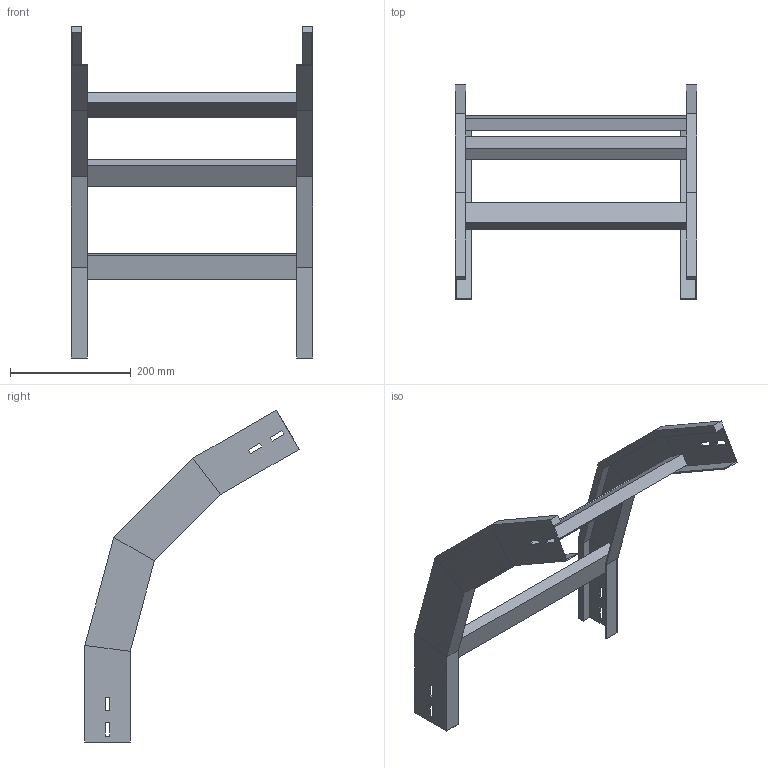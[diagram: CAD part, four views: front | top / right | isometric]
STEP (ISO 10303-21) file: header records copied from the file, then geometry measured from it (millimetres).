
FILE_DESCRIPTION (( 'STEP AP214' ), '1' );
FILE_NAME ('A2_41B3C400.step', '2025-02-21T15:00:01', ( '' ), ( '' ), 'SwSTEP 2.0', 'SolidWorks 2023', '' );
FILE_SCHEMA (( 'AUTOMOTIVE_DESIGN' ));
Length unit declared in the file: millimetre
Products named in the file (3): A2_41B3C400; LONGH.DISCESA_60°_H75_R300; TRAVERSINO_400
Assembly tree (5 placements, depth 2):
  A2_41B3C400
    LONGH.DISCESA_60°_H75_R300  x2
    TRAVERSINO_400  x3
Bounding box: 400 x 354.62 x 549.27 mm (x, y, z)
Volume: 1478267.7 mm3; surface area: 453630.3 mm2
Topology: 5 solids, 5 shells, 118 faces, 276 edges, 168 vertices
Faces by surface type: plane 118
Entity records: 1672 total; most frequent: CARTESIAN_POINT 276, ORIENTED_EDGE 264, DIRECTION 260, EDGE_CURVE 132, VECTOR 132, LINE 132, VERTEX_POINT 80, AXIS2_PLACEMENT_3D 64
